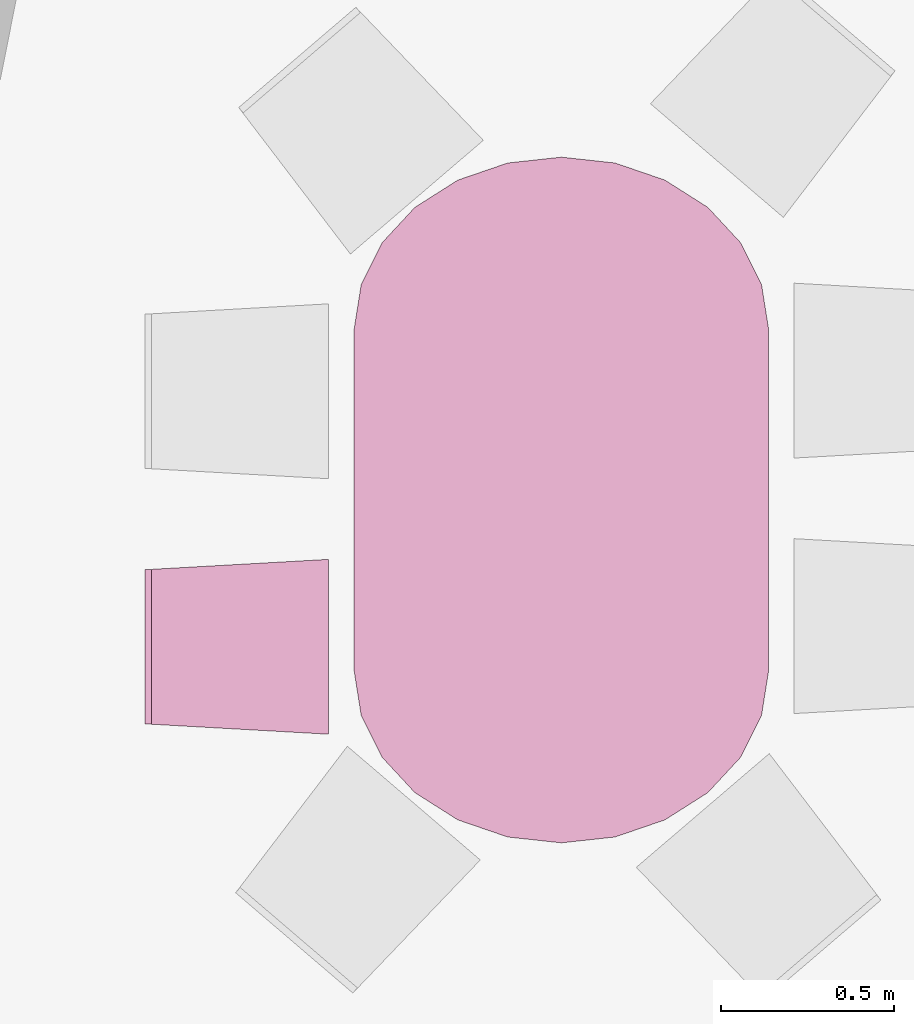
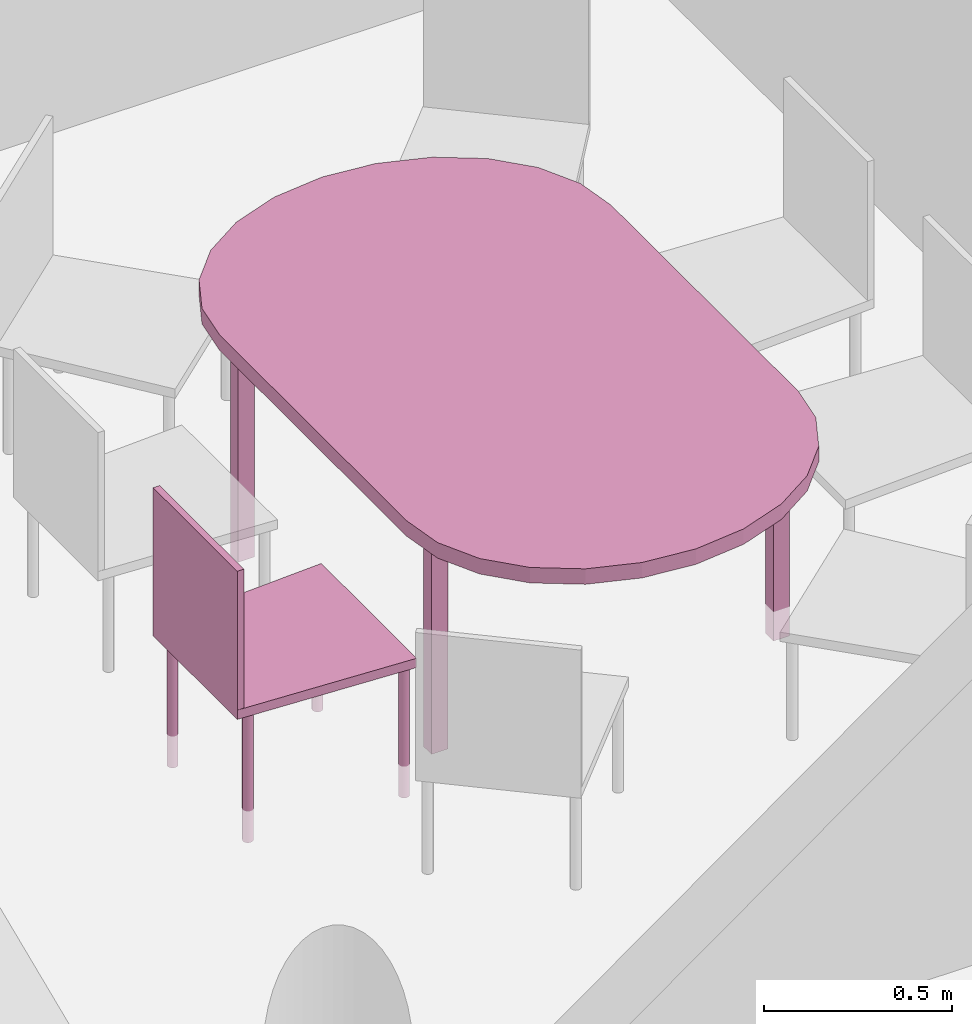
"""IFC4 building model written with IfcOpenShell, lengths in metres."""

from ifc_helpers import new_model, entity, si_unit, converted_unit, derived_unit, frame, origin, place, context, subcontext, project, spatial, faceted_brep, element, save


model = new_model("IFC4")

# Units and contexts
model_context = context("Model", 3, precision=1e-05, world=origin())
body_context = subcontext(model_context, "Body", "Model", "MODEL_VIEW")
ifc_project = project(units=[si_unit("LENGTHUNIT", "METRE"), si_unit("AREAUNIT", "SQUARE_METRE"), si_unit("VOLUMEUNIT", "CUBIC_METRE"), si_unit("MASSUNIT", "GRAM", prefix="KILO"), converted_unit("PLANEANGLEUNIT", "DEGREE", entity("IfcPlaneAngleMeasure", 0.0174532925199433), si_unit("PLANEANGLEUNIT", "RADIAN"), dimensions=[0, 0, 0, 0, 0, 0, 0]), derived_unit("THERMALTRANSMITTANCEUNIT", [(si_unit("POWERUNIT", "WATT"), 1), (si_unit("THERMODYNAMICTEMPERATUREUNIT", "KELVIN"), -1), (si_unit("LENGTHUNIT", "METRE"), -2)]), derived_unit("VOLUMETRICFLOWRATEUNIT", [(si_unit("LENGTHUNIT", "METRE"), 3), (converted_unit("TIMEUNIT", "hour", entity("IfcTimeMeasure", 3600.0), si_unit("TIMEUNIT", "SECOND"), dimensions=[0, 0, 1, 0, 0, 0, 0]), -1), (si_unit("LENGTHUNIT", "METRE"), -1)])], contexts=[model_context])

# Building, storeys
building_placement = place(None, origin())
building = spatial("IfcBuilding", under=ifc_project, at=building_placement, Name="HABITATGE PLURIFAMILIAR", CompositionType="ELEMENT")
storey_1_placement = place(building_placement, frame((0.0, 0.0, 15.28)))
storey_1 = spatial("IfcBuildingStorey", under=building, at=storey_1_placement, Name="PLANTA QUARTA", CompositionType="ELEMENT", Elevation=15.28)
storey_2_placement = place(storey_1_placement, frame((0.0, 0.0, 12.27)))
storey_2 = spatial("IfcBuildingStorey", under=storey_1, at=storey_2_placement, Name="NOU", CompositionType="PARTIAL")

# Furniture
furniture_1_placement = place(storey_2_placement, frame((402.062620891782, 24.7406150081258, -12.3662410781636)))
element("IfcFurniture", 1, at=furniture_1_placement, inside=storey_2, Name="Taula 200X120_P4", context=body_context, shape_type="Brep", body=[
    faceted_brep([(0.0, 1.48958895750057, 0.7), (0.0, 0.496502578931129, 0.7), (0.0204428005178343, 0.367998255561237, 0.7), (0.0803780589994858, 0.248251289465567, 0.7), (0.175721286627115, 0.14542223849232, 0.7), (0.299974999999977, 0.066518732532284, 0.7), (0.444671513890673, 0.0169179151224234, 0.7), (0.599949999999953, 0.0, 0.7), (0.755228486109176, 0.0169179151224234, 0.7), (0.89992499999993, 0.066518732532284, 0.7), (1.02417871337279, 0.14542223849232, 0.7), (1.11952194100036, 0.248251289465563, 0.7), (1.17945719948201, 0.367998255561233, 0.7), (1.19989999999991, 0.496502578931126, 0.7), (1.19989999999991, 1.48958895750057, 0.7), (1.17945719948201, 1.61809328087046, 0.7), (1.11952194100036, 1.73784024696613, 0.7), (1.02417871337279, 1.84066929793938, 0.7), (0.89992499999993, 1.91957280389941, 0.7), (0.755228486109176, 1.96917362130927, 0.7), (0.599949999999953, 1.9860915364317, 0.7), (0.444671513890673, 1.96917362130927, 0.7), (0.299974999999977, 1.91957280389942, 0.7), (0.175721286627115, 1.84066929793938, 0.7), (0.0803780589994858, 1.73784024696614, 0.7), (0.0204428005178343, 1.61809328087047, 0.7), (1.19989999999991, 1.48958895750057, 0.75), (1.19989999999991, 0.496502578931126, 0.75), (1.17945719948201, 0.367998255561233, 0.75), (1.11952194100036, 0.248251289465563, 0.75), (1.02417871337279, 0.14542223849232, 0.75), (0.89992499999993, 0.066518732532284, 0.75), (0.755228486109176, 0.0169179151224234, 0.75), (0.599949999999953, 0.0, 0.75), (0.444671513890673, 0.0169179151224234, 0.75), (0.299974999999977, 0.066518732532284, 0.75), (0.175721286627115, 0.14542223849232, 0.75), (0.0803780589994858, 0.248251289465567, 0.75), (0.0204428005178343, 0.367998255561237, 0.75), (0.0, 0.496502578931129, 0.75), (0.0, 1.48958895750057, 0.75), (0.0204428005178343, 1.61809328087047, 0.75), (0.0803780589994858, 1.73784024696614, 0.75), (0.175721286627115, 1.84066929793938, 0.75), (0.299974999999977, 1.91957280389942, 0.75), (0.444671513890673, 1.96917362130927, 0.75), (0.599949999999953, 1.9860915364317, 0.75), (0.755228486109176, 1.96917362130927, 0.75), (0.89992499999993, 1.91957280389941, 0.75), (1.02417871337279, 1.84066929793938, 0.75), (1.11952194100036, 1.73784024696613, 0.75), (1.17945719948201, 1.61809328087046, 0.75)], [[[0, 1, 2, 3, 4, 5, 6, 7, 8, 9, 10, 11, 12, 13, 14, 15, 16, 17, 18, 19, 20, 21, 22, 23, 24, 25]], [[26, 27, 28, 29, 30, 31, 32, 33, 34, 35, 36, 37, 38, 39, 40, 41, 42, 43, 44, 45, 46, 47, 48, 49, 50, 51]], [[40, 39, 1, 0]], [[40, 0, 25, 41]], [[41, 25, 24, 42]], [[42, 24, 23, 43]], [[43, 23, 22, 44]], [[44, 22, 21, 45]], [[45, 21, 20, 46]], [[46, 20, 19, 47]], [[47, 19, 18, 48]], [[48, 18, 17, 49]], [[49, 17, 16, 50]], [[50, 16, 15, 51]], [[51, 15, 14, 26]], [[27, 26, 14, 13]], [[27, 13, 12, 28]], [[28, 12, 11, 29]], [[29, 11, 10, 30]], [[30, 10, 9, 31]], [[31, 9, 8, 32]], [[32, 8, 7, 33]], [[33, 7, 6, 34]], [[34, 6, 5, 35]], [[35, 5, 4, 36]], [[36, 4, 3, 37]], [[37, 3, 2, 38]], [[38, 2, 1, 39]]], orient=[[False], [False], [False], [False], [False], [False], [False], [False], [False], [False], [False], [False], [False], [False], [False], [False], [False], [False], [False], [False], [False], [False], [False], [False], [False], [False], [False], [False]]),
    faceted_brep([(1.14989999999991, 0.455123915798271, 0.0), (1.14989999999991, 0.496502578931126, 0.0), (1.09989999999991, 0.496502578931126, 0.0), (1.09989999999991, 0.455123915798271, 0.0), (1.14989999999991, 0.496502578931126, 0.7), (1.14989999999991, 0.455123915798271, 0.7), (1.09989999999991, 0.455123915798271, 0.7), (1.09989999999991, 0.496502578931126, 0.7)], [[[0, 1, 2, 3]], [[4, 5, 6, 7]], [[1, 0, 5, 4]], [[2, 1, 4, 7]], [[3, 2, 7, 6]], [[0, 3, 6, 5]]], orient=[[False], [False], [False], [False], [False], [False]]),
    faceted_brep([(0.102087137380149, 0.455123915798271, 0.0), (0.102087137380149, 0.496502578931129, 0.0), (0.0520871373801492, 0.496502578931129, 0.0), (0.0520871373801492, 0.455123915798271, 0.0), (0.102087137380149, 0.496502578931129, 0.7), (0.102087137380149, 0.455123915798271, 0.7), (0.0520871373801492, 0.455123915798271, 0.7), (0.0520871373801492, 0.496502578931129, 0.7)], [[[0, 1, 2, 3]], [[4, 5, 6, 7]], [[1, 0, 5, 4]], [[2, 1, 4, 7]], [[3, 2, 7, 6]], [[0, 3, 6, 5]]], orient=[[False], [False], [False], [False], [False], [False]]),
    faceted_brep([(0.0520871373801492, 1.48131476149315, 0.0), (0.102087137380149, 1.48131476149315, 0.0), (0.102087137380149, 1.52269342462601, 0.0), (0.0520871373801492, 1.52269342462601, 0.0), (0.0520871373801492, 1.52269342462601, 0.7), (0.102087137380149, 1.52269342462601, 0.7), (0.102087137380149, 1.48131476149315, 0.7), (0.0520871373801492, 1.48131476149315, 0.7)], [[[0, 1, 2, 3]], [[4, 5, 6, 7]], [[3, 4, 7, 0]], [[2, 5, 4, 3]], [[1, 6, 5, 2]], [[0, 7, 6, 1]]], orient=[[False], [False], [False], [False], [False], [False]]),
    faceted_brep([(1.09989999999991, 1.48131476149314, 0.0), (1.14989999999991, 1.48131476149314, 0.0), (1.14989999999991, 1.52269342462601, 0.0), (1.09989999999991, 1.52269342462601, 0.0), (1.09989999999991, 1.52269342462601, 0.7), (1.14989999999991, 1.52269342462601, 0.7), (1.14989999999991, 1.48131476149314, 0.7), (1.09989999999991, 1.48131476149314, 0.7)], [[[0, 1, 2, 3]], [[4, 5, 6, 7]], [[3, 4, 7, 0]], [[2, 5, 4, 3]], [[1, 6, 5, 2]], [[0, 7, 6, 1]]], orient=[[False], [False], [False], [False], [False], [False]]),
])
furniture_2_placement = place(storey_2_placement, frame((401.455887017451, 25.0552616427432, -12.3736574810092)))
element("IfcFurniture", 2, at=furniture_2_placement, inside=storey_2, Name="Cadira confident_P4", context=body_context, shape_type="Brep", body=[
    faceted_brep([(0.522448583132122, 0.0242257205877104, 0.0), (0.522221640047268, 0.0268196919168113, 0.0), (0.521547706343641, 0.0293348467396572, 0.0), (0.520447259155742, 0.0316947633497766, 0.0), (0.51895373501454, 0.0338277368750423, 0.0), (0.517112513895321, 0.0356689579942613, 0.0), (0.514979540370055, 0.0371624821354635, 0.0), (0.512619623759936, 0.0382629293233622, 0.0), (0.51010446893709, 0.0389368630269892, 0.0), (0.507510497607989, 0.0391638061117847, 0.0), (0.504916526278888, 0.0389368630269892, 0.0), (0.502401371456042, 0.0382629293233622, 0.0), (0.500041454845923, 0.0371624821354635, 0.0), (0.497908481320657, 0.0356689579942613, 0.0), (0.496067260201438, 0.0338277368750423, 0.0), (0.494573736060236, 0.0316947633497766, 0.0), (0.493473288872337, 0.0293348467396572, 0.0), (0.49279935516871, 0.0268196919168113, 0.0), (0.492572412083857, 0.0242257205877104, 0.0), (0.49279935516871, 0.0216317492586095, 0.0), (0.493473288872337, 0.0191165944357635, 0.0), (0.494573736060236, 0.0167566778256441, 0.0), (0.496067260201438, 0.0146237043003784, 0.0), (0.497908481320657, 0.0127824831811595, 0.0), (0.500041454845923, 0.0112889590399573, 0.0), (0.502401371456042, 0.0101885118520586, 0.0), (0.504916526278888, 0.00951457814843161, 0.0), (0.507510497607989, 0.00928763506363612, 0.0), (0.51010446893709, 0.00951457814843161, 0.0), (0.512619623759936, 0.0101885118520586, 0.0), (0.514979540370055, 0.0112889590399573, 0.0), (0.517112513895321, 0.0127824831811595, 0.0), (0.51895373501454, 0.0146237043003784, 0.0), (0.520447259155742, 0.0167566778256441, 0.0), (0.521547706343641, 0.0191165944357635, 0.0), (0.522221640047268, 0.0216317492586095, 0.0), (0.522448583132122, 0.0242257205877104, 0.448281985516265), (0.522221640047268, 0.0216317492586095, 0.448281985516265), (0.521547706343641, 0.0191165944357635, 0.448281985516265), (0.520447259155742, 0.0167566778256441, 0.448281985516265), (0.51895373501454, 0.0146237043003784, 0.448281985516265), (0.517112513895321, 0.0127824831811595, 0.448281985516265), (0.514979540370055, 0.0112889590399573, 0.448281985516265), (0.512619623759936, 0.0101885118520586, 0.448281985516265), (0.51010446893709, 0.00951457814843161, 0.448281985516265), (0.507510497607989, 0.00928763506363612, 0.448281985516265), (0.504916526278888, 0.00951457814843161, 0.448281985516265), (0.502401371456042, 0.0101885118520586, 0.448281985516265), (0.500041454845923, 0.0112889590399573, 0.448281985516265), (0.497908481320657, 0.0127824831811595, 0.448281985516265), (0.496067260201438, 0.0146237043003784, 0.448281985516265), (0.494573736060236, 0.0167566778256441, 0.448281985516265), (0.493473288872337, 0.0191165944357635, 0.448281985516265), (0.49279935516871, 0.0216317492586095, 0.448281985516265), (0.492572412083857, 0.0242257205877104, 0.448281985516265), (0.49279935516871, 0.0268196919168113, 0.448281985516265), (0.493473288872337, 0.0293348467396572, 0.448281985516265), (0.494573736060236, 0.0316947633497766, 0.448281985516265), (0.496067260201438, 0.0338277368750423, 0.448281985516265), (0.497908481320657, 0.0356689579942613, 0.448281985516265), (0.500041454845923, 0.0371624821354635, 0.448281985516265), (0.502401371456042, 0.0382629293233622, 0.448281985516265), (0.504916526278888, 0.0389368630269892, 0.448281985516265), (0.507510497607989, 0.0391638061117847, 0.448281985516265), (0.51010446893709, 0.0389368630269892, 0.448281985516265), (0.512619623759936, 0.0382629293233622, 0.448281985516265), (0.514979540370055, 0.0371624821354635, 0.448281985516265), (0.517112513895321, 0.0356689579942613, 0.448281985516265), (0.51895373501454, 0.0338277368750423, 0.448281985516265), (0.520447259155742, 0.0316947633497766, 0.448281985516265), (0.521547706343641, 0.0293348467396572, 0.448281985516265), (0.522221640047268, 0.0268196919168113, 0.448281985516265)], [[[0, 1, 2, 3, 4, 5, 6, 7, 8, 9, 10, 11, 12, 13, 14, 15, 16, 17, 18, 19, 20, 21, 22, 23, 24, 25, 26, 27, 28, 29, 30, 31, 32, 33, 34, 35]], [[36, 37, 38, 39, 40, 41, 42, 43, 44, 45, 46, 47, 48, 49, 50, 51, 52, 53, 54, 55, 56, 57, 58, 59, 60, 61, 62, 63, 64, 65, 66, 67, 68, 69, 70, 71]], [[1, 0, 36, 71]], [[2, 1, 71, 70]], [[3, 2, 70, 69]], [[4, 3, 69, 68]], [[5, 4, 68, 67]], [[6, 5, 67, 66]], [[7, 6, 66, 65]], [[8, 7, 65, 64]], [[9, 8, 64, 63]], [[10, 9, 63, 62]], [[11, 10, 62, 61]], [[12, 11, 61, 60]], [[13, 12, 60, 59]], [[14, 13, 59, 58]], [[15, 14, 58, 57]], [[16, 15, 57, 56]], [[17, 16, 56, 55]], [[18, 17, 55, 54]], [[19, 18, 54, 53]], [[20, 19, 53, 52]], [[21, 20, 52, 51]], [[22, 21, 51, 50]], [[23, 22, 50, 49]], [[24, 23, 49, 48]], [[25, 24, 48, 47]], [[26, 25, 47, 46]], [[27, 26, 46, 45]], [[28, 27, 45, 44]], [[29, 28, 44, 43]], [[30, 29, 43, 42]], [[31, 30, 42, 41]], [[32, 31, 41, 40]], [[33, 32, 40, 39]], [[34, 33, 39, 38]], [[35, 34, 38, 37]], [[0, 35, 37, 36]]], orient=[[False], [False], [False], [False], [False], [False], [False], [False], [False], [False], [False], [False], [False], [False], [False], [False], [False], [False], [False], [False], [False], [False], [False], [False], [False], [False], [False], [False], [False], [False], [False], [False], [False], [False], [False], [False], [False], [False]]),
    faceted_brep([(0.0600415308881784, 0.0518637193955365, 0.0), (0.0598145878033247, 0.0544576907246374, 0.0), (0.0591406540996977, 0.0569728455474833, 0.0), (0.058040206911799, 0.0593327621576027, 0.0), (0.0565466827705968, 0.0614657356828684, 0.0), (0.0547054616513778, 0.0633069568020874, 0.0), (0.0525724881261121, 0.0648004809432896, 0.0), (0.0502125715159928, 0.0659009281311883, 0.0), (0.0476974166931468, 0.0665748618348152, 0.0), (0.0451034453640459, 0.0668018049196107, 0.0), (0.042509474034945, 0.0665748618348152, 0.0), (0.0399943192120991, 0.0659009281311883, 0.0), (0.0376344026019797, 0.0648004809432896, 0.0), (0.035501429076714, 0.0633069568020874, 0.0), (0.033660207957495, 0.0614657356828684, 0.0), (0.0321666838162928, 0.0593327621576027, 0.0), (0.0310662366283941, 0.0569728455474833, 0.0), (0.0303923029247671, 0.0544576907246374, 0.0), (0.0301653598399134, 0.0518637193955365, 0.0), (0.0303923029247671, 0.0492697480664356, 0.0), (0.0310662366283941, 0.0467545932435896, 0.0), (0.0321666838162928, 0.0443946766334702, 0.0), (0.033660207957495, 0.0422617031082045, 0.0), (0.035501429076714, 0.0404204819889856, 0.0), (0.0376344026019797, 0.0389269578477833, 0.0), (0.0399943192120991, 0.0378265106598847, 0.0), (0.042509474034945, 0.0371525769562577, 0.0), (0.0451034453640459, 0.0369256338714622, 0.0), (0.0476974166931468, 0.0371525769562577, 0.0), (0.0502125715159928, 0.0378265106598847, 0.0), (0.0525724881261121, 0.0389269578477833, 0.0), (0.0547054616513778, 0.0404204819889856, 0.0), (0.0565466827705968, 0.0422617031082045, 0.0), (0.058040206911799, 0.0443946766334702, 0.0), (0.0591406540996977, 0.0467545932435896, 0.0), (0.0598145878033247, 0.0492697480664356, 0.0), (0.0600415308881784, 0.0518637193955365, 0.448281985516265), (0.0598145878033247, 0.0492697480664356, 0.448281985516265), (0.0591406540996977, 0.0467545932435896, 0.448281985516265), (0.058040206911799, 0.0443946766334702, 0.448281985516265), (0.0565466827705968, 0.0422617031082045, 0.448281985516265), (0.0547054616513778, 0.0404204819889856, 0.448281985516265), (0.0525724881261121, 0.0389269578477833, 0.448281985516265), (0.0502125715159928, 0.0378265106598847, 0.448281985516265), (0.0476974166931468, 0.0371525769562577, 0.448281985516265), (0.0451034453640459, 0.0369256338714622, 0.448281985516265), (0.042509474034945, 0.0371525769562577, 0.448281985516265), (0.0399943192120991, 0.0378265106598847, 0.448281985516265), (0.0376344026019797, 0.0389269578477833, 0.448281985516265), (0.035501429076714, 0.0404204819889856, 0.448281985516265), (0.033660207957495, 0.0422617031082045, 0.448281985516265), (0.0321666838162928, 0.0443946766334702, 0.448281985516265), (0.0310662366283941, 0.0467545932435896, 0.448281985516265), (0.0303923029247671, 0.0492697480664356, 0.448281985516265), (0.0301653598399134, 0.0518637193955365, 0.448281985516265), (0.0303923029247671, 0.0544576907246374, 0.448281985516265), (0.0310662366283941, 0.0569728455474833, 0.448281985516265), (0.0321666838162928, 0.0593327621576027, 0.448281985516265), (0.033660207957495, 0.0614657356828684, 0.448281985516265), (0.035501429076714, 0.0633069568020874, 0.448281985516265), (0.0376344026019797, 0.0648004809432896, 0.448281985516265), (0.0399943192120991, 0.0659009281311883, 0.448281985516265), (0.042509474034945, 0.0665748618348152, 0.448281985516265), (0.0451034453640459, 0.0668018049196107, 0.448281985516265), (0.0476974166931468, 0.0665748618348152, 0.448281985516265), (0.0502125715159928, 0.0659009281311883, 0.448281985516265), (0.0525724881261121, 0.0648004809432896, 0.448281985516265), (0.0547054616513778, 0.0633069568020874, 0.448281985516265), (0.0565466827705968, 0.0614657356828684, 0.448281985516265), (0.058040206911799, 0.0593327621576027, 0.448281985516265), (0.0591406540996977, 0.0569728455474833, 0.448281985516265), (0.0598145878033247, 0.0544576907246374, 0.448281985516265)], [[[0, 1, 2, 3, 4, 5, 6, 7, 8, 9, 10, 11, 12, 13, 14, 15, 16, 17, 18, 19, 20, 21, 22, 23, 24, 25, 26, 27, 28, 29, 30, 31, 32, 33, 34, 35]], [[36, 37, 38, 39, 40, 41, 42, 43, 44, 45, 46, 47, 48, 49, 50, 51, 52, 53, 54, 55, 56, 57, 58, 59, 60, 61, 62, 63, 64, 65, 66, 67, 68, 69, 70, 71]], [[1, 0, 36, 71]], [[2, 1, 71, 70]], [[3, 2, 70, 69]], [[4, 3, 69, 68]], [[5, 4, 68, 67]], [[6, 5, 67, 66]], [[7, 6, 66, 65]], [[8, 7, 65, 64]], [[9, 8, 64, 63]], [[10, 9, 63, 62]], [[11, 10, 62, 61]], [[12, 11, 61, 60]], [[13, 12, 60, 59]], [[14, 13, 59, 58]], [[15, 14, 58, 57]], [[16, 15, 57, 56]], [[17, 16, 56, 55]], [[18, 17, 55, 54]], [[19, 18, 54, 53]], [[20, 19, 53, 52]], [[21, 20, 52, 51]], [[22, 21, 51, 50]], [[23, 22, 50, 49]], [[24, 23, 49, 48]], [[25, 24, 48, 47]], [[26, 25, 47, 46]], [[27, 26, 46, 45]], [[28, 27, 45, 44]], [[29, 28, 44, 43]], [[30, 29, 43, 42]], [[31, 30, 42, 41]], [[32, 31, 41, 40]], [[33, 32, 40, 39]], [[34, 33, 39, 38]], [[35, 34, 38, 37]], [[0, 35, 37, 36]]], orient=[[False], [False], [False], [False], [False], [False], [False], [False], [False], [False], [False], [False], [False], [False], [False], [False], [False], [False], [False], [False], [False], [False], [False], [False], [False], [False], [False], [False], [False], [False], [False], [False], [False], [False], [False], [False], [False], [False]]),
    faceted_brep([(0.522448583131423, 0.484225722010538, 0.0), (0.52222164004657, 0.486819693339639, 0.0), (0.521547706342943, 0.489334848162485, 0.0), (0.520447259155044, 0.491694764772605, 0.0), (0.518953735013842, 0.49382773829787, 0.0), (0.517112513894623, 0.495668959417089, 0.0), (0.514979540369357, 0.497162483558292, 0.0), (0.512619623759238, 0.49826293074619, 0.0), (0.510104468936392, 0.498936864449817, 0.0), (0.507510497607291, 0.499163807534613, 0.0), (0.50491652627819, 0.498936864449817, 0.0), (0.502401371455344, 0.49826293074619, 0.0), (0.500041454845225, 0.497162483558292, 0.0), (0.497908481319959, 0.495668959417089, 0.0), (0.49606726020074, 0.49382773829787, 0.0), (0.494573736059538, 0.491694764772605, 0.0), (0.493473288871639, 0.489334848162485, 0.0), (0.492799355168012, 0.486819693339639, 0.0), (0.492572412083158, 0.484225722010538, 0.0), (0.492799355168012, 0.481631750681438, 0.0), (0.493473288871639, 0.479116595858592, 0.0), (0.494573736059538, 0.476756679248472, 0.0), (0.49606726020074, 0.474623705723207, 0.0), (0.497908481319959, 0.472782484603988, 0.0), (0.500041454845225, 0.471288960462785, 0.0), (0.502401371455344, 0.470188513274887, 0.0), (0.50491652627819, 0.46951457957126, 0.0), (0.507510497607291, 0.469287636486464, 0.0), (0.510104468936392, 0.46951457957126, 0.0), (0.512619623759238, 0.470188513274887, 0.0), (0.514979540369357, 0.471288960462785, 0.0), (0.517112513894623, 0.472782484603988, 0.0), (0.518953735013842, 0.474623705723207, 0.0), (0.520447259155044, 0.476756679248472, 0.0), (0.521547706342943, 0.479116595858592, 0.0), (0.52222164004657, 0.481631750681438, 0.0), (0.522448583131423, 0.484225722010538, 0.448281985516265), (0.52222164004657, 0.481631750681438, 0.448281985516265), (0.521547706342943, 0.479116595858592, 0.448281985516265), (0.520447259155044, 0.476756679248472, 0.448281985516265), (0.518953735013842, 0.474623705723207, 0.448281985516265), (0.517112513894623, 0.472782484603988, 0.448281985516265), (0.514979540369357, 0.471288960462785, 0.448281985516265), (0.512619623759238, 0.470188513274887, 0.448281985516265), (0.510104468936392, 0.46951457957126, 0.448281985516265), (0.507510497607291, 0.469287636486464, 0.448281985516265), (0.50491652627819, 0.46951457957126, 0.448281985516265), (0.502401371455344, 0.470188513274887, 0.448281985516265), (0.500041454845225, 0.471288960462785, 0.448281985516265), (0.497908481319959, 0.472782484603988, 0.448281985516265), (0.49606726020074, 0.474623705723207, 0.448281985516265), (0.494573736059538, 0.476756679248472, 0.448281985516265), (0.493473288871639, 0.479116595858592, 0.448281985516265), (0.492799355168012, 0.481631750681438, 0.448281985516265), (0.492572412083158, 0.484225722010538, 0.448281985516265), (0.492799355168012, 0.486819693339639, 0.448281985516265), (0.493473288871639, 0.489334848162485, 0.448281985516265), (0.494573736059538, 0.491694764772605, 0.448281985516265), (0.49606726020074, 0.49382773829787, 0.448281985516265), (0.497908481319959, 0.495668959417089, 0.448281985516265), (0.500041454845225, 0.497162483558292, 0.448281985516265), (0.502401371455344, 0.49826293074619, 0.448281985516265), (0.50491652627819, 0.498936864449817, 0.448281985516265), (0.507510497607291, 0.499163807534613, 0.448281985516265), (0.510104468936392, 0.498936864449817, 0.448281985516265), (0.512619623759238, 0.49826293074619, 0.448281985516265), (0.514979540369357, 0.497162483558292, 0.448281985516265), (0.517112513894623, 0.495668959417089, 0.448281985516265), (0.518953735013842, 0.49382773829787, 0.448281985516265), (0.520447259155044, 0.491694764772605, 0.448281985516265), (0.521547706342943, 0.489334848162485, 0.448281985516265), (0.52222164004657, 0.486819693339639, 0.448281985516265)], [[[0, 1, 2, 3, 4, 5, 6, 7, 8, 9, 10, 11, 12, 13, 14, 15, 16, 17, 18, 19, 20, 21, 22, 23, 24, 25, 26, 27, 28, 29, 30, 31, 32, 33, 34, 35]], [[36, 37, 38, 39, 40, 41, 42, 43, 44, 45, 46, 47, 48, 49, 50, 51, 52, 53, 54, 55, 56, 57, 58, 59, 60, 61, 62, 63, 64, 65, 66, 67, 68, 69, 70, 71]], [[1, 0, 36, 71]], [[2, 1, 71, 70]], [[3, 2, 70, 69]], [[4, 3, 69, 68]], [[5, 4, 68, 67]], [[6, 5, 67, 66]], [[7, 6, 66, 65]], [[8, 7, 65, 64]], [[9, 8, 64, 63]], [[10, 9, 63, 62]], [[11, 10, 62, 61]], [[12, 11, 61, 60]], [[13, 12, 60, 59]], [[14, 13, 59, 58]], [[15, 14, 58, 57]], [[16, 15, 57, 56]], [[17, 16, 56, 55]], [[18, 17, 55, 54]], [[19, 18, 54, 53]], [[20, 19, 53, 52]], [[21, 20, 52, 51]], [[22, 21, 51, 50]], [[23, 22, 50, 49]], [[24, 23, 49, 48]], [[25, 24, 48, 47]], [[26, 25, 47, 46]], [[27, 26, 46, 45]], [[28, 27, 45, 44]], [[29, 28, 44, 43]], [[30, 29, 43, 42]], [[31, 30, 42, 41]], [[32, 31, 41, 40]], [[33, 32, 40, 39]], [[34, 33, 39, 38]], [[35, 34, 38, 37]], [[0, 35, 37, 36]]], orient=[[False], [False], [False], [False], [False], [False], [False], [False], [False], [False], [False], [False], [False], [False], [False], [False], [False], [False], [False], [False], [False], [False], [False], [False], [False], [False], [False], [False], [False], [False], [False], [False], [False], [False], [False], [False], [False], [False]]),
    faceted_brep([(0.0600415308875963, 0.451863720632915, 0.0), (0.0598145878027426, 0.454457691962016, 0.0), (0.0591406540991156, 0.456972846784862, 0.0), (0.058040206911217, 0.459332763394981, 0.0), (0.0565466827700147, 0.461465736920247, 0.0), (0.0547054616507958, 0.463306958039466, 0.0), (0.0525724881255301, 0.464800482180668, 0.0), (0.0502125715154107, 0.465900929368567, 0.0), (0.0476974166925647, 0.466574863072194, 0.0), (0.0451034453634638, 0.466801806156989, 0.0), (0.0425094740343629, 0.466574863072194, 0.0), (0.039994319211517, 0.465900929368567, 0.0), (0.0376344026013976, 0.464800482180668, 0.0), (0.0355014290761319, 0.463306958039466, 0.0), (0.0336602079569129, 0.461465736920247, 0.0), (0.0321666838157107, 0.459332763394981, 0.0), (0.031066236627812, 0.456972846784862, 0.0), (0.0303923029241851, 0.454457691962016, 0.0), (0.0301653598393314, 0.451863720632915, 0.0), (0.0303923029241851, 0.449269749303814, 0.0), (0.031066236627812, 0.446754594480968, 0.0), (0.0321666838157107, 0.444394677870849, 0.0), (0.0336602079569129, 0.442261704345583, 0.0), (0.0355014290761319, 0.440420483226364, 0.0), (0.0376344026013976, 0.438926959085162, 0.0), (0.039994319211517, 0.437826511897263, 0.0), (0.0425094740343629, 0.437152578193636, 0.0), (0.0451034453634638, 0.436925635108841, 0.0), (0.0476974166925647, 0.437152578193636, 0.0), (0.0502125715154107, 0.437826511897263, 0.0), (0.0525724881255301, 0.438926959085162, 0.0), (0.0547054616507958, 0.440420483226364, 0.0), (0.0565466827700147, 0.442261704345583, 0.0), (0.058040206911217, 0.444394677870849, 0.0), (0.0591406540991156, 0.446754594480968, 0.0), (0.0598145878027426, 0.449269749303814, 0.0), (0.0600415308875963, 0.451863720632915, 0.448281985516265), (0.0598145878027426, 0.449269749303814, 0.448281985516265), (0.0591406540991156, 0.446754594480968, 0.448281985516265), (0.058040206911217, 0.444394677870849, 0.448281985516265), (0.0565466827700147, 0.442261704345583, 0.448281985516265), (0.0547054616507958, 0.440420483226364, 0.448281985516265), (0.0525724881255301, 0.438926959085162, 0.448281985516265), (0.0502125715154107, 0.437826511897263, 0.448281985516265), (0.0476974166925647, 0.437152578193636, 0.448281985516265), (0.0451034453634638, 0.436925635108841, 0.448281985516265), (0.0425094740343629, 0.437152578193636, 0.448281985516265), (0.039994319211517, 0.437826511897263, 0.448281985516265), (0.0376344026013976, 0.438926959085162, 0.448281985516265), (0.0355014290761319, 0.440420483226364, 0.448281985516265), (0.0336602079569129, 0.442261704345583, 0.448281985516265), (0.0321666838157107, 0.444394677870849, 0.448281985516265), (0.031066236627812, 0.446754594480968, 0.448281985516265), (0.0303923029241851, 0.449269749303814, 0.448281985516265), (0.0301653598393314, 0.451863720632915, 0.448281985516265), (0.0303923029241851, 0.454457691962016, 0.448281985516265), (0.031066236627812, 0.456972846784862, 0.448281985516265), (0.0321666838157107, 0.459332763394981, 0.448281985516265), (0.0336602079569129, 0.461465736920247, 0.448281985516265), (0.0355014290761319, 0.463306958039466, 0.448281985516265), (0.0376344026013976, 0.464800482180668, 0.448281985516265), (0.039994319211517, 0.465900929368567, 0.448281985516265), (0.0425094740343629, 0.466574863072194, 0.448281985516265), (0.0451034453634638, 0.466801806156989, 0.448281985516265), (0.0476974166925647, 0.466574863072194, 0.448281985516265), (0.0502125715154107, 0.465900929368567, 0.448281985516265), (0.0525724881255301, 0.464800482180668, 0.448281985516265), (0.0547054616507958, 0.463306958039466, 0.448281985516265), (0.0565466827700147, 0.461465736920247, 0.448281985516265), (0.058040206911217, 0.459332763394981, 0.448281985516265), (0.0591406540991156, 0.456972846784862, 0.448281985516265), (0.0598145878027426, 0.454457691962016, 0.448281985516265)], [[[0, 1, 2, 3, 4, 5, 6, 7, 8, 9, 10, 11, 12, 13, 14, 15, 16, 17, 18, 19, 20, 21, 22, 23, 24, 25, 26, 27, 28, 29, 30, 31, 32, 33, 34, 35]], [[36, 37, 38, 39, 40, 41, 42, 43, 44, 45, 46, 47, 48, 49, 50, 51, 52, 53, 54, 55, 56, 57, 58, 59, 60, 61, 62, 63, 64, 65, 66, 67, 68, 69, 70, 71]], [[1, 0, 36, 71]], [[2, 1, 71, 70]], [[3, 2, 70, 69]], [[4, 3, 69, 68]], [[5, 4, 68, 67]], [[6, 5, 67, 66]], [[7, 6, 66, 65]], [[8, 7, 65, 64]], [[9, 8, 64, 63]], [[10, 9, 63, 62]], [[11, 10, 62, 61]], [[12, 11, 61, 60]], [[13, 12, 60, 59]], [[14, 13, 59, 58]], [[15, 14, 58, 57]], [[16, 15, 57, 56]], [[17, 16, 56, 55]], [[18, 17, 55, 54]], [[19, 18, 54, 53]], [[20, 19, 53, 52]], [[21, 20, 52, 51]], [[22, 21, 51, 50]], [[23, 22, 50, 49]], [[24, 23, 49, 48]], [[25, 24, 48, 47]], [[26, 25, 47, 46]], [[27, 26, 46, 45]], [[28, 27, 45, 44]], [[29, 28, 44, 43]], [[30, 29, 43, 42]], [[31, 30, 42, 41]], [[32, 31, 41, 40]], [[33, 32, 40, 39]], [[34, 33, 39, 38]], [[35, 34, 38, 37]], [[0, 35, 37, 36]]], orient=[[False], [False], [False], [False], [False], [False], [False], [False], [False], [False], [False], [False], [False], [False], [False], [False], [False], [False], [False], [False], [False], [False], [False], [False], [False], [False], [False], [False], [False], [False], [False], [False], [False], [False], [False], [False], [False], [False]]),
    faceted_brep([(0.0, 0.476514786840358, 0.418281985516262), (0.0, 0.0300000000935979, 0.418281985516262), (0.532607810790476, 0.0, 0.418281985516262), (0.532607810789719, 0.506514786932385, 0.418281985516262), (0.532607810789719, 0.506514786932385, 0.448281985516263), (0.532607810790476, 0.0, 0.448281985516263), (0.0, 0.0300000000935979, 0.448281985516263), (0.0, 0.476514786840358, 0.448281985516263)], [[[0, 1, 2, 3]], [[4, 5, 6, 7]], [[3, 4, 7, 0]], [[2, 5, 4, 3]], [[1, 6, 5, 2]], [[0, 7, 6, 1]]], orient=[[False], [False], [False], [False], [False], [False]]),
    faceted_brep([(0.0200000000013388, 0.476514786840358, 0.448281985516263), (0.0, 0.476514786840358, 0.448281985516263), (0.0, 0.0300000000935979, 0.448281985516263), (0.0200000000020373, 0.0300000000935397, 0.448281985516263), (0.0200000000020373, 0.0300000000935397, 0.898281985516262), (0.0, 0.0300000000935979, 0.898281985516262), (0.0, 0.476514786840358, 0.898281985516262), (0.0200000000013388, 0.476514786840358, 0.898281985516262)], [[[0, 1, 2, 3]], [[4, 5, 6, 7]], [[3, 4, 7, 0]], [[2, 5, 4, 3]], [[1, 6, 5, 2]], [[0, 7, 6, 1]]], orient=[[False], [False], [False], [False], [False], [False]]),
])

save(model, "model.ifc")
